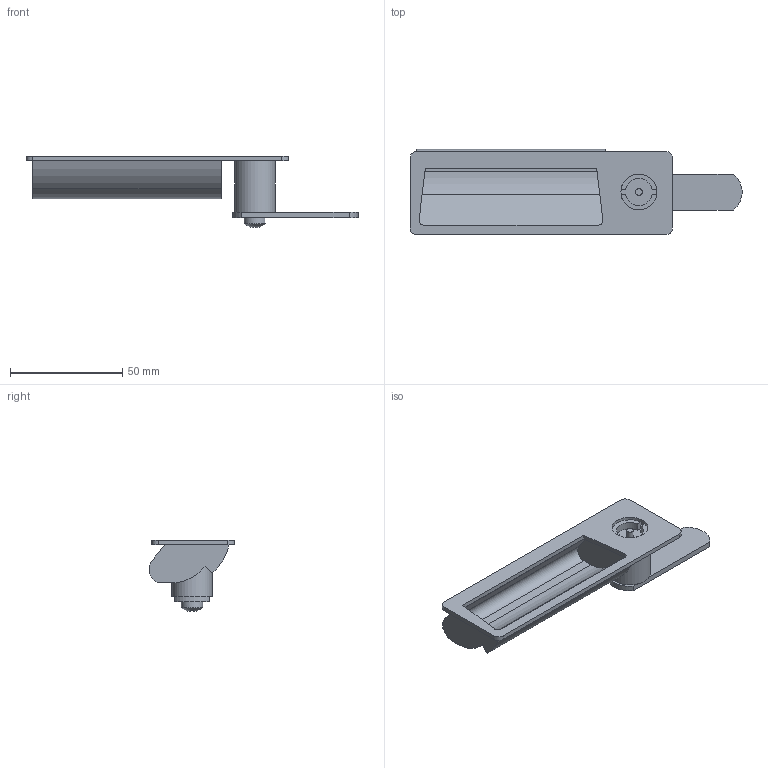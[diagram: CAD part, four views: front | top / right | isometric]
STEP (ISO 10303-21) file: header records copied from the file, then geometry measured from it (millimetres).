
FILE_DESCRIPTION( ( 'STEP AP203' ), '1' );
FILE_NAME( 'C:/Temp/Ganter_Step_05_03_2020/data/3_3/gn731_5/gn731_5_2/Latche with gripping tray GN 731.5-VDE-0-46-2-SG (0-23).stp', '2020-03-12T11:49:38', ( 'License CC BY-ND 4.0' ), ( 'CADENAS' ), ' ', 'PARTsolutions', ' ' );
FILE_SCHEMA( ( 'CONFIG_CONTROL_DESIGN' ) );
Length unit declared in the file: millimetre
Products named in the file (3): Latche with gripping tray GN 731.5-VDE-0-46-2-SG (0-23); _Latche with gripping tray GN 731.5-VDE-0-46-2-SG (0)_1; _Latche with gripping tray GN 731.5-VDE-0-46-2-SG (0-23)_2
Assembly tree (2 placements, depth 2):
  Latche with gripping tray GN 731.5-VDE-0-46-2-SG (0-23)
    _Latche with gripping tray GN 731.5-VDE-0-46-2-SG (0)_1
    _Latche with gripping tray GN 731.5-VDE-0-46-2-SG (0-23)_2
Bounding box: 147.96 x 38 x 31.88 mm (x, y, z)
Volume: 24463.2 mm3; surface area: 20386.3 mm2
Topology: 2 solids, 2 shells, 90 faces, 230 edges, 150 vertices
Faces by surface type: plane 66, cylinder 23, sphere 1
Full cylindrical faces by diameter (mm): 3 x1, 9.5 x1, 16 x1, 18 x1
Entity records: 2775 total; most frequent: DIRECTION 477, CARTESIAN_POINT 460, ORIENTED_EDGE 442, EDGE_CURVE 221, AXIS2_PLACEMENT_3D 163, LINE 151, VECTOR 151, VERTEX_POINT 146
